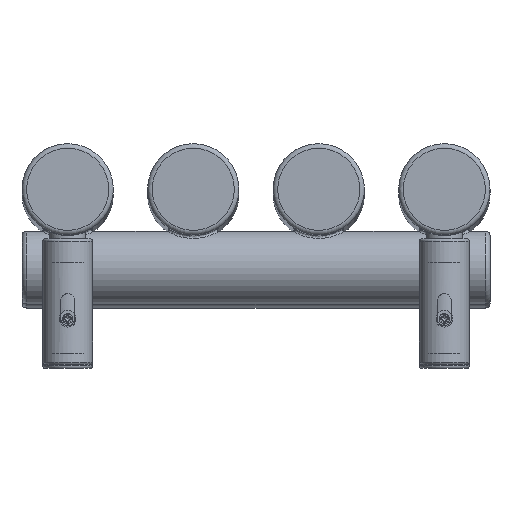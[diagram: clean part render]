
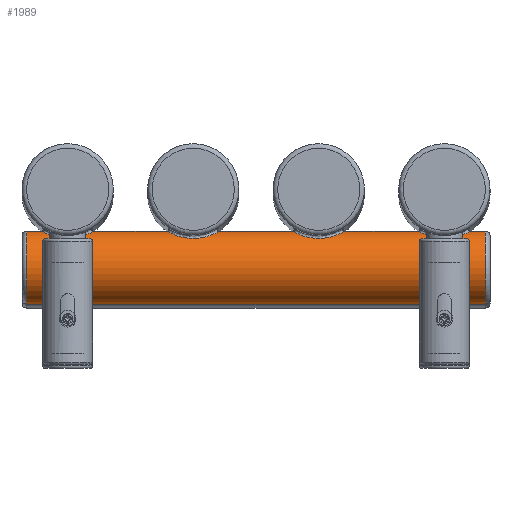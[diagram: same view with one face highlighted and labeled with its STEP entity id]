
A CAD part, top view. The second image highlights one B-rep face of the part: STEP entity #1989.
In plain terms, the highlighted cylindrical face has radius 16 mm (diameter 32 mm), a full revolution.
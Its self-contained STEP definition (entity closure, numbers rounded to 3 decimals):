
#170=FACE_BOUND('',#518,.T.);
#171=FACE_BOUND('',#519,.T.);
#172=FACE_BOUND('',#520,.T.);
#173=FACE_BOUND('',#521,.T.);
#193=LINE('',#4246,#266);
#266=VECTOR('',#2499,16.);
#339=CYLINDRICAL_SURFACE('',#2178,16.);
#374=FACE_OUTER_BOUND('',#517,.T.);
#517=EDGE_LOOP('',(#1425,#1426,#1427,#1428));
#518=EDGE_LOOP('',(#1429));
#519=EDGE_LOOP('',(#1430));
#520=EDGE_LOOP('',(#1431));
#521=EDGE_LOOP('',(#1432));
#668=B_SPLINE_CURVE_WITH_KNOTS('',3,(#4222,#4223,#4224,#4225,#4226,#4227,
#4228,#4229,#4230,#4231,#4232,#4233,#4234,#4235,#4236,#4237,#4238,#4239,
#4240,#4241),.UNSPECIFIED.,.T.,.F.,(4,1,1,1,1,1,1,1,1,1,1,1,1,1,1,1,1,4),
(0.,0.367,0.733,1.1,1.466,
1.711,1.955,2.199,2.444,2.933,
3.177,3.421,3.666,3.788,3.91,
4.399,4.765,5.132),.UNSPECIFIED.);
#669=B_SPLINE_CURVE_WITH_KNOTS('',3,(#4249,#4250,#4251,#4252,#4253,#4254,
#4255,#4256,#4257,#4258,#4259,#4260,#4261,#4262,#4263,#4264,#4265,#4266,
#4267),.UNSPECIFIED.,.T.,.F.,(4,1,1,1,1,1,1,1,1,1,1,1,1,1,1,1,4),(0.,0.367,
0.733,1.1,1.466,1.711,1.955,
2.199,2.444,2.933,3.177,3.421,
3.666,3.91,4.399,4.765,5.132),
 .UNSPECIFIED.);
#670=B_SPLINE_CURVE_WITH_KNOTS('',3,(#4269,#4270,#4271,#4272,#4273,#4274,
#4275,#4276,#4277,#4278,#4279,#4280,#4281,#4282,#4283,#4284,#4285,#4286,
#4287,#4288,#4289),.UNSPECIFIED.,.T.,.F.,(4,1,1,1,1,1,1,1,1,1,1,1,1,1,1,
1,1,1,4),(0.,0.367,0.733,0.916,1.1,
1.466,1.711,1.955,2.199,2.444,
2.688,2.933,3.177,3.421,3.666,
3.91,4.399,4.765,5.132),
 .UNSPECIFIED.);
#671=B_SPLINE_CURVE_WITH_KNOTS('',3,(#4291,#4292,#4293,#4294,#4295,#4296,
#4297,#4298,#4299,#4300,#4301,#4302,#4303,#4304,#4305,#4306,#4307,#4308,
#4309,#4310,#4311),.UNSPECIFIED.,.T.,.F.,(4,1,1,1,1,1,1,1,1,1,1,1,1,1,1,
1,1,1,4),(0.,0.367,0.733,0.916,1.1,
1.466,1.711,1.955,2.199,2.444,
2.688,2.933,3.177,3.421,3.666,
3.91,4.399,4.765,5.132),
 .UNSPECIFIED.);
#724=CIRCLE('',#2179,16.);
#725=CIRCLE('',#2180,16.);
#886=VERTEX_POINT('',#4220);
#887=VERTEX_POINT('',#4243);
#888=VERTEX_POINT('',#4245);
#889=VERTEX_POINT('',#4248);
#890=VERTEX_POINT('',#4268);
#891=VERTEX_POINT('',#4290);
#1102=EDGE_CURVE('',#886,#886,#668,.T.);
#1103=EDGE_CURVE('',#887,#887,#724,.T.);
#1104=EDGE_CURVE('',#887,#888,#193,.T.);
#1105=EDGE_CURVE('',#888,#888,#725,.T.);
#1106=EDGE_CURVE('',#889,#889,#669,.T.);
#1107=EDGE_CURVE('',#890,#890,#670,.T.);
#1108=EDGE_CURVE('',#891,#891,#671,.T.);
#1425=ORIENTED_EDGE('',*,*,#1103,.F.);
#1426=ORIENTED_EDGE('',*,*,#1104,.T.);
#1427=ORIENTED_EDGE('',*,*,#1105,.F.);
#1428=ORIENTED_EDGE('',*,*,#1104,.F.);
#1429=ORIENTED_EDGE('',*,*,#1106,.F.);
#1430=ORIENTED_EDGE('',*,*,#1107,.F.);
#1431=ORIENTED_EDGE('',*,*,#1108,.F.);
#1432=ORIENTED_EDGE('',*,*,#1102,.F.);
#1989=ADVANCED_FACE('',(#374,#170,#171,#172,#173),#339,.T.);
#2178=AXIS2_PLACEMENT_3D('',#4242,#2495,#2496);
#2179=AXIS2_PLACEMENT_3D('',#4244,#2497,#2498);
#2180=AXIS2_PLACEMENT_3D('',#4247,#2500,#2501);
#2495=DIRECTION('center_axis',(-1.,0.,0.));
#2496=DIRECTION('ref_axis',(0.,0.,1.));
#2497=DIRECTION('center_axis',(-1.,0.,0.));
#2498=DIRECTION('ref_axis',(0.,0.,1.));
#2499=DIRECTION('',(1.,0.,0.));
#2500=DIRECTION('center_axis',(1.,0.,0.));
#2501=DIRECTION('ref_axis',(0.,0.,1.));
#4220=CARTESIAN_POINT('',(-165.,-21.257,1054.676));
#4222=CARTESIAN_POINT('Ctrl Pts',(-165.,-21.257,1054.676));
#4223=CARTESIAN_POINT('Ctrl Pts',(-163.333,-21.257,1054.676));
#4224=CARTESIAN_POINT('Ctrl Pts',(-159.996,-20.861,1054.184));
#4225=CARTESIAN_POINT('Ctrl Pts',(-155.827,-19.326,1051.733));
#4226=CARTESIAN_POINT('Ctrl Pts',(-153.534,-17.945,1047.49));
#4227=CARTESIAN_POINT('Ctrl Pts',(-153.54,-17.945,1043.065));
#4228=CARTESIAN_POINT('Ctrl Pts',(-155.013,-18.83,1039.662));
#4229=CARTESIAN_POINT('Ctrl Pts',(-157.203,-19.86,1037.416));
#4230=CARTESIAN_POINT('Ctrl Pts',(-160.073,-20.764,1035.975));
#4231=CARTESIAN_POINT('Ctrl Pts',(-164.399,-21.457,1035.075));
#4232=CARTESIAN_POINT('Ctrl Pts',(-168.971,-21.078,1035.503));
#4233=CARTESIAN_POINT('Ctrl Pts',(-172.8,-19.857,1037.414));
#4234=CARTESIAN_POINT('Ctrl Pts',(-174.986,-18.832,1039.665));
#4235=CARTESIAN_POINT('Ctrl Pts',(-176.042,-18.2,1042.097));
#4236=CARTESIAN_POINT('Ctrl Pts',(-176.377,-17.994,1044.199));
#4237=CARTESIAN_POINT('Ctrl Pts',(-176.387,-17.977,1047.415));
#4238=CARTESIAN_POINT('Ctrl Pts',(-174.642,-19.138,1051.466));
#4239=CARTESIAN_POINT('Ctrl Pts',(-170.,-20.87,1054.18));
#4240=CARTESIAN_POINT('Ctrl Pts',(-166.667,-21.257,1054.676));
#4241=CARTESIAN_POINT('Ctrl Pts',(-165.,-21.257,1054.676));
#4242=CARTESIAN_POINT('Origin',(20.,-34.,1045.));
#4243=CARTESIAN_POINT('',(-183.,-34.,1029.));
#4244=CARTESIAN_POINT('Origin',(-183.,-34.,1045.));
#4245=CARTESIAN_POINT('',(18.,-34.,1029.));
#4246=CARTESIAN_POINT('',(20.,-34.,1029.));
#4247=CARTESIAN_POINT('Origin',(18.,-34.,1045.));
#4248=CARTESIAN_POINT('',(-110.,-21.257,1054.676));
#4249=CARTESIAN_POINT('Ctrl Pts',(-110.,-21.257,1054.676));
#4250=CARTESIAN_POINT('Ctrl Pts',(-108.333,-21.257,1054.676));
#4251=CARTESIAN_POINT('Ctrl Pts',(-104.996,-20.861,1054.183));
#4252=CARTESIAN_POINT('Ctrl Pts',(-100.824,-19.321,1051.735));
#4253=CARTESIAN_POINT('Ctrl Pts',(-98.535,-17.944,1047.489));
#4254=CARTESIAN_POINT('Ctrl Pts',(-98.541,-17.949,1043.065));
#4255=CARTESIAN_POINT('Ctrl Pts',(-100.014,-18.832,1039.661));
#4256=CARTESIAN_POINT('Ctrl Pts',(-102.203,-19.862,1037.415));
#4257=CARTESIAN_POINT('Ctrl Pts',(-105.073,-20.765,1035.975));
#4258=CARTESIAN_POINT('Ctrl Pts',(-109.399,-21.459,1035.075));
#4259=CARTESIAN_POINT('Ctrl Pts',(-113.971,-21.078,1035.504));
#4260=CARTESIAN_POINT('Ctrl Pts',(-117.798,-19.859,1037.414));
#4261=CARTESIAN_POINT('Ctrl Pts',(-119.989,-18.831,1039.665));
#4262=CARTESIAN_POINT('Ctrl Pts',(-121.247,-18.084,1042.578));
#4263=CARTESIAN_POINT('Ctrl Pts',(-121.602,-17.836,1046.907));
#4264=CARTESIAN_POINT('Ctrl Pts',(-119.645,-19.134,1051.468));
#4265=CARTESIAN_POINT('Ctrl Pts',(-114.999,-20.872,1054.179));
#4266=CARTESIAN_POINT('Ctrl Pts',(-111.667,-21.257,1054.676));
#4267=CARTESIAN_POINT('Ctrl Pts',(-110.,-21.257,1054.676));
#4268=CARTESIAN_POINT('',(0.,-21.257,1054.676));
#4269=CARTESIAN_POINT('Ctrl Pts',(0.,-21.257,
1054.676));
#4270=CARTESIAN_POINT('Ctrl Pts',(1.667,-21.257,1054.676));
#4271=CARTESIAN_POINT('Ctrl Pts',(5.008,-20.858,1054.186));
#4272=CARTESIAN_POINT('Ctrl Pts',(8.474,-19.582,1052.137));
#4273=CARTESIAN_POINT('Ctrl Pts',(10.325,-18.63,1049.615));
#4274=CARTESIAN_POINT('Ctrl Pts',(11.461,-17.949,1046.659));
#4275=CARTESIAN_POINT('Ctrl Pts',(11.462,-17.947,1043.066));
#4276=CARTESIAN_POINT('Ctrl Pts',(9.987,-18.833,1039.662));
#4277=CARTESIAN_POINT('Ctrl Pts',(7.797,-19.86,1037.415));
#4278=CARTESIAN_POINT('Ctrl Pts',(4.928,-20.768,1035.978));
#4279=CARTESIAN_POINT('Ctrl Pts',(1.682,-21.278,1035.296));
#4280=CARTESIAN_POINT('Ctrl Pts',(-1.682,-21.279,1035.296));
#4281=CARTESIAN_POINT('Ctrl Pts',(-4.929,-20.768,1035.978));
#4282=CARTESIAN_POINT('Ctrl Pts',(-7.797,-19.862,1037.415));
#4283=CARTESIAN_POINT('Ctrl Pts',(-9.989,-18.829,1039.664));
#4284=CARTESIAN_POINT('Ctrl Pts',(-11.247,-18.084,1042.578));
#4285=CARTESIAN_POINT('Ctrl Pts',(-11.602,-17.835,1046.907));
#4286=CARTESIAN_POINT('Ctrl Pts',(-9.645,-19.134,1051.468));
#4287=CARTESIAN_POINT('Ctrl Pts',(-4.999,-20.872,1054.179));
#4288=CARTESIAN_POINT('Ctrl Pts',(-1.667,-21.257,1054.676));
#4289=CARTESIAN_POINT('Ctrl Pts',(0.,-21.257,
1054.676));
#4290=CARTESIAN_POINT('',(-55.,-21.257,1054.676));
#4291=CARTESIAN_POINT('Ctrl Pts',(-55.,-21.257,1054.676));
#4292=CARTESIAN_POINT('Ctrl Pts',(-53.333,-21.257,1054.676));
#4293=CARTESIAN_POINT('Ctrl Pts',(-49.992,-20.858,1054.186));
#4294=CARTESIAN_POINT('Ctrl Pts',(-46.526,-19.582,1052.137));
#4295=CARTESIAN_POINT('Ctrl Pts',(-44.675,-18.63,1049.615));
#4296=CARTESIAN_POINT('Ctrl Pts',(-43.539,-17.949,1046.659));
#4297=CARTESIAN_POINT('Ctrl Pts',(-43.538,-17.947,1043.066));
#4298=CARTESIAN_POINT('Ctrl Pts',(-45.013,-18.833,1039.662));
#4299=CARTESIAN_POINT('Ctrl Pts',(-47.203,-19.86,1037.415));
#4300=CARTESIAN_POINT('Ctrl Pts',(-50.072,-20.768,1035.978));
#4301=CARTESIAN_POINT('Ctrl Pts',(-53.318,-21.278,1035.296));
#4302=CARTESIAN_POINT('Ctrl Pts',(-56.682,-21.279,1035.296));
#4303=CARTESIAN_POINT('Ctrl Pts',(-59.929,-20.768,1035.978));
#4304=CARTESIAN_POINT('Ctrl Pts',(-62.797,-19.862,1037.415));
#4305=CARTESIAN_POINT('Ctrl Pts',(-64.989,-18.829,1039.664));
#4306=CARTESIAN_POINT('Ctrl Pts',(-66.247,-18.084,1042.578));
#4307=CARTESIAN_POINT('Ctrl Pts',(-66.602,-17.835,1046.907));
#4308=CARTESIAN_POINT('Ctrl Pts',(-64.645,-19.134,1051.468));
#4309=CARTESIAN_POINT('Ctrl Pts',(-59.999,-20.872,1054.179));
#4310=CARTESIAN_POINT('Ctrl Pts',(-56.667,-21.257,1054.676));
#4311=CARTESIAN_POINT('Ctrl Pts',(-55.,-21.257,1054.676));
